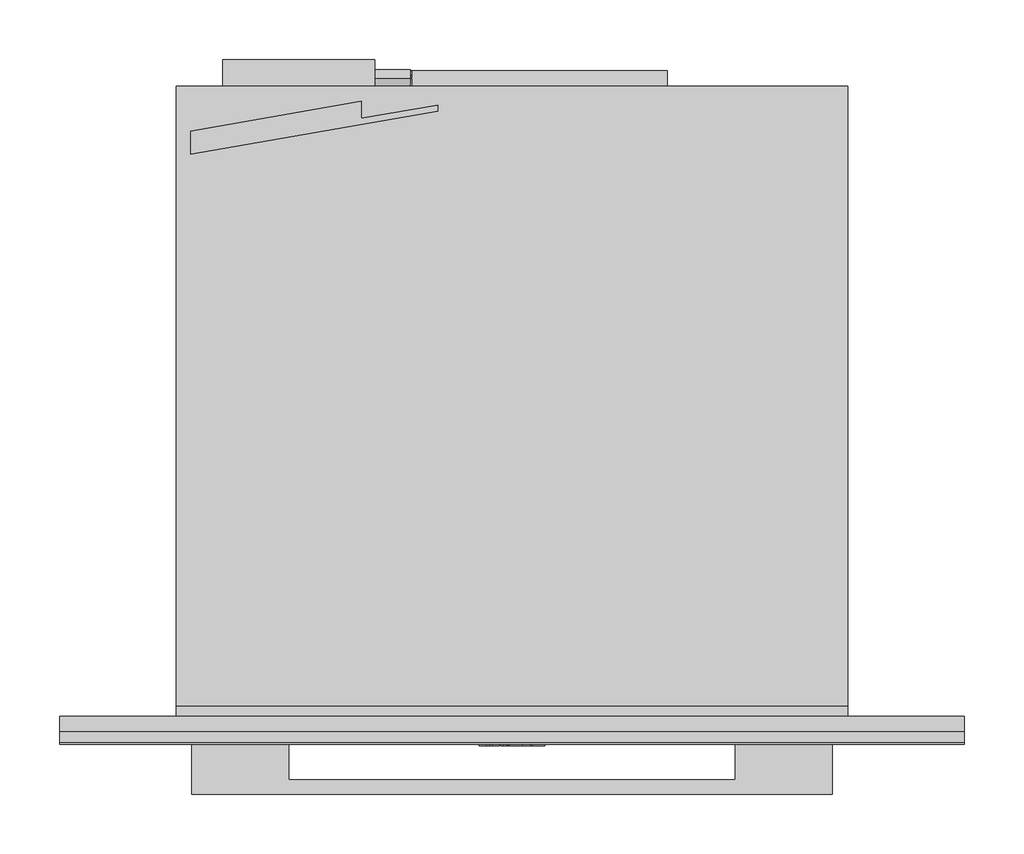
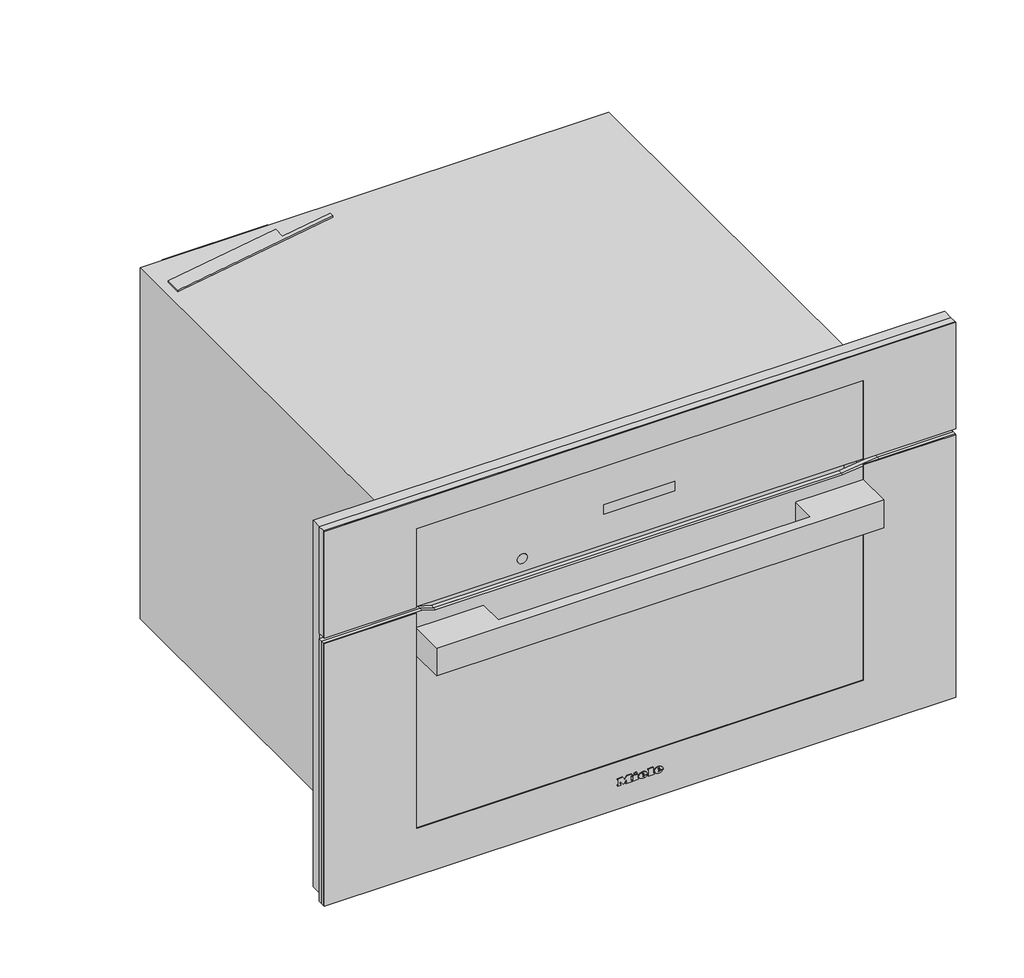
# Not in any storey: 1 proxy.
"""IFC4 building model written with IfcOpenShell, lengths in millimetres."""

import ifcopenshell
import ifcopenshell.guid

model = None  # the IFC model being written
_history = None  # IfcOwnerHistory: only IFC2X3 demands one
_inside = {}  # id of a spatial element -> (the spatial element, [elements in it])
_under = {}  # id of a project, library or spatial element -> (it, [spatial elements below it])
_declared = {}  # id of a project -> (the project, [libraries it declares])
_typed = {}  # id of a type object -> (the type object, [elements of that type])
_made_of = {}  # id of a material, layer set ... -> (it, [elements and type objects made of it])


def new_model(schema):
    """Start an empty IFC model of exactly this schema.

    Asked for "IFC4X3", IfcOpenShell would pick the latest addendum, in which some entities
    have other attributes; the version numbers below select the first issue.
    IFC2X3 requires an IfcOwnerHistory on every rooted entity: one is made here for all.
    """
    global model, _history
    if schema == "IFC4X3":
        model = ifcopenshell.file(schema_version=(4, 3, 0, 0))
    else:
        model = ifcopenshell.file(schema=schema)
    _inside.clear()
    _under.clear()
    _declared.clear()
    _typed.clear()
    _made_of.clear()
    _history = None
    if model.schema == "IFC2X3":
        org = make("IfcOrganization", Name="unknown")
        user = make(
            "IfcPersonAndOrganization",
            ThePerson=make("IfcPerson", FamilyName="unknown"),
            TheOrganization=org,
        )
        app = make(
            "IfcApplication",
            ApplicationDeveloper=org,
            Version="unknown",
            ApplicationFullName="unknown",
            ApplicationIdentifier="unknown",
        )
        _history = make(
            "IfcOwnerHistory",
            OwningUser=user,
            OwningApplication=app,
            ChangeAction="ADDED",
            CreationDate=0,
        )
    return model


def make(cls, **values):
    """One entity of the class cls with the attributes given. An attribute that is None is left unset."""
    return model.create_entity(
        cls, **{name: value for name, value in values.items() if value is not None}
    )


def rooted(cls, **values):
    """An entity with a GlobalId (a new one), such as an element, a storey or a relation."""
    return make(cls, GlobalId=ifcopenshell.guid.new(), OwnerHistory=_history, **values)


def si_unit(unit_type, name, prefix=None):
    """IfcSIUnit, for example si_unit("LENGTHUNIT", "METRE", prefix="MILLI")."""
    return make("IfcSIUnit", UnitType=unit_type, Prefix=prefix, Name=name)


def assignment(units):
    """IfcUnitAssignment: the units of a project."""
    return None if units is None else make("IfcUnitAssignment", Units=units)


def point(xyz):
    """IfcCartesianPoint."""
    return None if xyz is None else make("IfcCartesianPoint", Coordinates=xyz)


def direction(xyz):
    """IfcDirection."""
    return None if xyz is None else make("IfcDirection", DirectionRatios=xyz)


def frame(location, z_axis=None, x_axis=None):
    """IfcAxis2Placement3D, a coordinate frame: its origin and axes. An axis left out is left unset."""
    return make(
        "IfcAxis2Placement3D",
        Location=point(location),
        Axis=direction(z_axis),
        RefDirection=direction(x_axis),
    )


def frame_2d(location, x_axis=None):
    """IfcAxis2Placement2D, a coordinate frame in the plane: its origin and x axis."""
    return make(
        "IfcAxis2Placement2D", Location=point(location), RefDirection=direction(x_axis)
    )


def origin():
    """The frame at (0, 0, 0) with its axes left unset."""
    return frame((0.0, 0.0, 0.0))


def place(relative_to, where):
    """IfcLocalPlacement: puts the frame where relative to a parent placement (None: the world)."""
    return make(
        "IfcLocalPlacement", PlacementRelTo=relative_to, RelativePlacement=where
    )


def context(
    kind, dimensions, precision=None, world=None, true_north=None, identifier=None
):
    """IfcGeometricRepresentationContext, for example the 3D "Model" context."""
    return make(
        "IfcGeometricRepresentationContext",
        ContextIdentifier=identifier,
        ContextType=kind,
        CoordinateSpaceDimension=dimensions,
        Precision=precision,
        WorldCoordinateSystem=world,
        TrueNorth=true_north,
    )


def project(units=None, contexts=None):
    """IfcProject with its units and contexts."""
    return rooted(
        "IfcProject",
        Name="project",
        RepresentationContexts=contexts,
        UnitsInContext=assignment(units),
    )


def spatial(cls, under=None, at=None, **own):
    """A site, building, storey or space (cls), placed at a placement, below another one or the project."""
    s = rooted(cls, ObjectPlacement=at, **own)
    if under is not None:
        _under.setdefault(under.id(), (under, []))[1].append(s)
    return s


def polyline(points):
    """IfcPolyline through the points."""
    return make("IfcPolyline", Points=[point(p) for p in points])


def circle_curve(where, radius):
    """IfcCircle in the frame where."""
    return make("IfcCircle", Position=where, Radius=radius)


def ellipse_curve(where, semi_axis1, semi_axis2):
    """IfcEllipse in the frame where."""
    return make(
        "IfcEllipse", Position=where, SemiAxis1=semi_axis1, SemiAxis2=semi_axis2
    )


def trimmed(basis, trim1, trim2, sense, master):
    """IfcTrimmedCurve: the piece of a basis curve between two trims."""
    return make(
        "IfcTrimmedCurve",
        BasisCurve=basis,
        Trim1=trim1,
        Trim2=trim2,
        SenseAgreement=sense,
        MasterRepresentation=master,
    )


def segment(curve, same_sense, transition):
    """IfcCompositeCurveSegment."""
    return make(
        "IfcCompositeCurveSegment",
        Transition=transition,
        SameSense=same_sense,
        ParentCurve=curve,
    )


def composite_curve(segments, self_intersect=None):
    """IfcCompositeCurve: segments joined end to end."""
    return make("IfcCompositeCurve", Segments=segments, SelfIntersect=self_intersect)


def outline(outer, holes=None, kind="AREA"):
    """IfcArbitraryClosedProfileDef: a profile drawn as a closed curve; with holes, ...WithVoids."""
    if holes is None:
        return make("IfcArbitraryClosedProfileDef", ProfileType=kind, OuterCurve=outer)
    return make(
        "IfcArbitraryProfileDefWithVoids",
        ProfileType=kind,
        OuterCurve=outer,
        InnerCurves=holes,
    )


def extrude(swept, where, along, depth):
    """IfcExtrudedAreaSolid: the profile swept, set in the frame where, extruded along a direction by depth."""
    return make(
        "IfcExtrudedAreaSolid",
        SweptArea=swept,
        Position=where,
        ExtrudedDirection=direction(along),
        Depth=depth,
    )


def faces_of(points, faces, orient=None, outer=None):
    """IfcFace entities. A face is a list of loops; a loop is a list of indices into points, from 0.

    orient and outer hold one flag for each loop. By default every Orientation is true, the
    first loop of a face is its IfcFaceOuterBound and the others are IfcFaceBound.
    """
    made = []
    for i, loops in enumerate(faces):
        bounds = []
        for j, loop in enumerate(loops):
            is_outer = j == 0 if outer is None else outer[i][j]
            bounds.append(
                make(
                    "IfcFaceOuterBound" if is_outer else "IfcFaceBound",
                    Bound=make("IfcPolyLoop", Polygon=[points[k] for k in loop]),
                    Orientation=True if orient is None else orient[i][j],
                )
            )
        made.append(make("IfcFace", Bounds=bounds))
    return made


def faceted_brep(points, faces, orient=None, outer=None, voids=None):
    """IfcFacetedBrep: a solid bounded by flat faces; with voids (closed shells), ...WithVoids."""
    shared = [point(p) for p in points]
    hull = make("IfcClosedShell", CfsFaces=faces_of(shared, faces, orient, outer))
    if voids is None:
        return make("IfcFacetedBrep", Outer=hull)
    return make(
        "IfcFacetedBrepWithVoids",
        Outer=hull,
        Voids=[
            make(cls, CfsFaces=faces_of(shared, fs, o, b)) for cls, fs, o, b in voids
        ],
    )


def shape(context_of_items, identifier, shape_type, items):
    """IfcShapeRepresentation: the items that make up one representation, for example the "Body"."""
    return make(
        "IfcShapeRepresentation",
        ContextOfItems=context_of_items,
        RepresentationIdentifier=identifier,
        RepresentationType=shape_type,
        Items=items,
    )


def source(mapping_origin, context_of_items, identifier, shape_type, items):
    """IfcRepresentationMap: a shape defined once, which mapped items show again and again."""
    return make(
        "IfcRepresentationMap",
        MappingOrigin=mapping_origin,
        MappedRepresentation=shape(context_of_items, identifier, shape_type, items),
    )


def transform(
    local_origin,
    x_axis=None,
    y_axis=None,
    z_axis=None,
    scale=None,
    scale2=None,
    scale3=None,
    uniform=True,
):
    """IfcCartesianTransformationOperator3D, or its non-uniform kind. x_axis, y_axis, z_axis: its Axis1, 2, 3."""
    if uniform:
        return make(
            "IfcCartesianTransformationOperator3D",
            Axis1=direction(x_axis),
            Axis2=direction(y_axis),
            LocalOrigin=point(local_origin),
            Scale=scale,
            Axis3=direction(z_axis),
        )
    return make(
        "IfcCartesianTransformationOperator3DnonUniform",
        Axis1=direction(x_axis),
        Axis2=direction(y_axis),
        LocalOrigin=point(local_origin),
        Scale=scale,
        Axis3=direction(z_axis),
        Scale2=scale2,
        Scale3=scale3,
    )


def mapped(mapping_source, mapping_target):
    """IfcMappedItem: shows the shape of a source again, moved by a transform."""
    return make(
        "IfcMappedItem", MappingSource=mapping_source, MappingTarget=mapping_target
    )


def made_of(thing, what):
    """Note that an element or type object is made of a material, layer set ...; save() writes the relation."""
    if what is not None:
        _made_of.setdefault(what.id(), (what, []))[1].append(thing)
    return thing


def element(
    cls,
    number,
    at=None,
    inside=None,
    cuts=None,
    type_object=None,
    material=None,
    context=None,
    identifier="Body",
    shape_type=None,
    held_by="IfcProductDefinitionShape",
    body=None,
    shapes=None,
    **own,
):
    """One element of the class cls, such as IfcWall. Its Tag is "e" and its number.

    at: its placement. inside: the storey or other place that contains it. cuts: it is an
    opening in that element (IfcRelVoidsElement). A single representation is given by context,
    identifier, shape_type and body (its items); several are given by shapes. held_by: the class
    of the entity that holds the representations. save() writes the other relations.
    """
    e = rooted(cls, Tag="e%d" % number, ObjectPlacement=at, **own)
    if body is not None:
        shapes = [shape(context, identifier, shape_type, body)]
    if shapes is not None:
        e.Representation = make(held_by, Representations=shapes)
    if inside is not None:
        _inside.setdefault(inside.id(), (inside, []))[1].append(e)
    if cuts is not None:
        rooted(
            "IfcRelVoidsElement", RelatingBuildingElement=cuts, RelatedOpeningElement=e
        )
    if type_object is not None:
        _typed.setdefault(type_object.id(), (type_object, []))[1].append(e)
    return made_of(e, material)


def aggregate(whole, parts):
    """IfcRelAggregates: a whole, such as a stair, and the parts it consists of."""
    return rooted("IfcRelAggregates", RelatingObject=whole, RelatedObjects=parts)


def save(model, path):
    """Write the relations noted so far, then the file.

    IfcRelAggregates (storeys below a building ...), IfcRelContainedInSpatialStructure (elements
    in a storey), IfcRelDefinesByType, IfcRelAssociatesMaterial and IfcRelDeclares: one each for
    every whole, place, type object, material and project.
    """
    for whole, parts in _under.values():
        aggregate(whole, parts)
    for where, things in _inside.values():
        rooted(
            "IfcRelContainedInSpatialStructure",
            RelatedElements=things,
            RelatingStructure=where,
        )
    for kind, things in _typed.values():
        rooted("IfcRelDefinesByType", RelatedObjects=things, RelatingType=kind)
    for what, things in _made_of.values():
        rooted("IfcRelAssociatesMaterial", RelatedObjects=things, RelatingMaterial=what)
    for by, libraries in _declared.values():
        rooted("IfcRelDeclares", RelatingContext=by, RelatedDefinitions=libraries)
    model.write(path)


def plane_surface(at):
    """IfcPlane: the flat surface through the origin of the frame at, square to its z axis."""
    return make("IfcPlane", Position=at)


def cylinder_surface(at, radius):
    """IfcCylindricalSurface: all points at the distance radius from the z axis of the frame at."""
    return make("IfcCylindricalSurface", Position=at, Radius=radius)


def revolved_surface(curve, axis_point, axis_direction):
    """IfcSurfaceOfRevolution: the curve turned about the line through axis_point along axis_direction."""
    return make(
        "IfcSurfaceOfRevolution",
        SweptCurve=make("IfcArbitraryOpenProfileDef", ProfileType="CURVE", Curve=curve),
        AxisPosition=make("IfcAxis1Placement", Location=point(axis_point), Axis=direction(axis_direction)),
    )


def extruded_surface(curve, direction_of_extrusion, depth):
    """IfcSurfaceOfLinearExtrusion: the curve pushed along a direction by depth."""
    return make(
        "IfcSurfaceOfLinearExtrusion",
        SweptCurve=make("IfcArbitraryOpenProfileDef", ProfileType="CURVE", Curve=curve),
        ExtrudedDirection=direction(direction_of_extrusion),
        Depth=depth,
    )


def advanced_brep(points, edges, surfaces, faces):
    """IfcAdvancedBrep: a solid bounded by faces that lie on surfaces and meet in shared edges.

    An edge is (start, end): straight between two places in points (the first is 0);
    or (start, end, curve); or (start, end, curve, False) where it runs against its curve.
    A face is (place in surfaces, loops), or (place, loops, False) where it looks against
    its surface's normal. A loop lists edges by number (the first is 1), with a minus sign
    where the edge is run from its end to its start. The first loop is the outer one.
    """
    corners = [point(p) for p in points]
    vertices = [make("IfcVertexPoint", VertexGeometry=c) for c in corners]
    made = []
    for start, end, *more in edges:
        made.append(
            make(
                "IfcEdgeCurve",
                EdgeStart=vertices[start],
                EdgeEnd=vertices[end],
                EdgeGeometry=more[0] if more else make("IfcPolyline", Points=[corners[start], corners[end]]),
                SameSense=more[1] if len(more) > 1 else True,
            )
        )
    hull = []
    for where, loops, *sense in faces:
        bounds = []
        for j, loop in enumerate(loops):
            ring = [make("IfcOrientedEdge", EdgeElement=made[abs(k) - 1], Orientation=k > 0) for k in loop]
            bounds.append(
                make(
                    "IfcFaceOuterBound" if j == 0 else "IfcFaceBound",
                    Bound=make("IfcEdgeLoop", EdgeList=ring),
                    Orientation=True,
                )
            )
        hull.append(make("IfcAdvancedFace", Bounds=bounds, FaceSurface=surfaces[where], SameSense=sense[0] if sense else True))
    return make("IfcAdvancedBrep", Outer=make("IfcClosedShell", CfsFaces=hull))


def specialty_equipment_035421ed(model_context):
    return source(origin(), model_context, "Body", "SolidModel", [
        advanced_brep(
        [(21.28, -24.3, 36.133), (21.28, -24.3, 37.042), (27.301, -24.3, 37.042), (16.825, -24.3, 37.042), (19.3, -24.3, 34.0), (27.148, -24.3, 36.133), (24.43, -24.3, 36.133), (22.288, -24.3, 35.125), (21.28, -24.3, 38.194), (21.28, -24.3, 39.175), (22.819, -24.3, 39.175), (22.819, -24.3, 38.194), (21.28, -23.3, 36.133), (22.288, -23.3, 35.125), (24.43, -23.3, 36.133), (27.148, -23.3, 36.133), (19.3, -23.3, 34.0), (16.825, -23.3, 37.042), (27.301, -23.3, 37.042), (21.28, -23.3, 37.042), (21.28, -23.3, 38.194), (22.819, -23.3, 38.194), (22.819, -23.3, 39.175), (21.28, -23.3, 39.175)],
        [
            (0, 1),
            (1, 2),
            (2, 3, ellipse_curve(frame((22.063, -24.3, 37.042), z_axis=(0.0, -1.0, 0.0), x_axis=(-1.0, 0.0, 0.0)), 5.238, 4.329)),
            (3, 4, circle_curve(frame((20.3080491, -24.3, 37.348), z_axis=(0.0, -1.0, 0.0), x_axis=(0.0, 0.0, -1.0)), 3.4964649)),
            (4, 5, circle_curve(frame((21.9581428, -24.3, 39.724), z_axis=(0.0, -1.0, 0.0), x_axis=(0.0, 0.0, -1.0)), 6.3110933)),
            (5, 6),
            (6, 7, circle_curve(frame((22.7279412, -24.3, 36.97), z_axis=(0.0, 1.0, 0.0), x_axis=(0.0, 0.0, -1.0)), 1.896727)),
            (7, 0, circle_curve(frame((22.288, -24.3, 36.133), z_axis=(0.0, 1.0, 0.0), x_axis=(0.0, 0.0, -1.0)), 1.008)),
            (8, 9),
            (9, 10, circle_curve(frame((22.0495, -24.3, 39.175), z_axis=(0.0, 1.0, 0.0), x_axis=(0.0, 0.0, -1.0)), 0.7695)),
            (10, 11),
            (11, 8),
            (12, 13, circle_curve(frame((22.288, -23.3, 36.133), z_axis=(0.0, -1.0, 0.0), x_axis=(0.0, 0.0, -1.0)), 1.008)),
            (13, 14, circle_curve(frame((22.7279412, -23.3, 36.97), z_axis=(0.0, -1.0, 0.0), x_axis=(0.0, 0.0, -1.0)), 1.896727)),
            (14, 15),
            (15, 16, circle_curve(frame((21.9581428, -23.3, 39.724), z_axis=(0.0, 1.0, 0.0), x_axis=(0.0, 0.0, -1.0)), 6.3110933)),
            (16, 17, circle_curve(frame((20.3080491, -23.3, 37.348), z_axis=(0.0, 1.0, 0.0), x_axis=(0.0, 0.0, -1.0)), 3.4964649)),
            (17, 18, ellipse_curve(frame((22.063, -23.3, 37.042), z_axis=(0.0, 1.0, 0.0), x_axis=(-1.0, 0.0, 0.0)), 5.238, 4.329)),
            (18, 19),
            (19, 12),
            (20, 21),
            (21, 22),
            (22, 23, circle_curve(frame((22.0495, -23.3, 39.175), z_axis=(0.0, -1.0, 0.0), x_axis=(0.0, 0.0, -1.0)), 0.7695)),
            (23, 20),
            (0, 12),
            (19, 1),
            (18, 2),
            (5, 15),
            (14, 6),
            (17, 3),
            (13, 7),
            (16, 4),
            (8, 20),
            (23, 9),
            (22, 10),
            (21, 11),
        ],
        [
            plane_surface(frame((21.28, -24.3, 37.042), z_axis=(0.0, -1.0, 0.0), x_axis=(0.0, 0.0, 1.0))),
            plane_surface(frame((21.28, -23.3, 37.042), z_axis=(0.0, 1.0, 0.0), x_axis=(0.0, 0.0, -1.0))),
            plane_surface(frame((21.28, -24.3, 36.133), z_axis=(1.0, 0.0, 0.0), x_axis=(0.0, 1.0, 0.0))),
            plane_surface(frame((21.28, -24.3, 37.042), z_axis=(0.0, 0.0, -1.0), x_axis=(0.0, 1.0, 0.0))),
            plane_surface(frame((27.148, -24.3, 36.133), z_axis=(0.0, 0.0, 1.0), x_axis=(0.0, 1.0, 0.0))),
            extruded_surface(trimmed(ellipse_curve(frame((22.063, -22.3, 37.042), z_axis=(0.0, -1.0, 0.0), x_axis=(-1.0, 0.0, 0.0)), 5.238, 4.329), [point((27.301, -22.3, 37.042))], [point((16.825, -22.3, 37.042))], True, "CARTESIAN"), (0.0, -1.0, 0.0), 1.0),
            revolved_surface(polyline([(22.7279412, -23.3, 35.073273), (22.7279412, -24.3, 35.073273)]), (22.7279412, -23.3, 36.97), (0.0, 1.0, 0.0)),
            revolved_surface(polyline([(22.288, -23.3, 35.125), (22.288, -24.3, 35.125)]), (22.288, -23.3, 36.133), (0.0, 1.0, 0.0)),
            cylinder_surface(frame((20.3080491, -23.3, 37.348), z_axis=(0.0, -1.0, 0.0), x_axis=(0.0, 0.0, -1.0)), 3.4964649),
            cylinder_surface(frame((21.9581428, -23.3, 39.724), z_axis=(0.0, -1.0, 0.0), x_axis=(0.0, 0.0, -1.0)), 6.3110933),
            plane_surface(frame((21.28, -24.3, 38.194), z_axis=(1.0, 0.0, 0.0), x_axis=(0.0, 1.0, 0.0))),
            revolved_surface(polyline([(22.0495, -23.3, 38.405499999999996), (22.0495, -24.3, 38.405499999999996)]), (22.0495, -23.3, 39.175), (0.0, 1.0, 0.0)),
            plane_surface(frame((22.819, -24.3, 39.175), z_axis=(-1.0, 0.0, 0.0), x_axis=(0.0, 1.0, 0.0))),
            plane_surface(frame((22.819, -24.3, 38.194), z_axis=(0.0, 0.0, 1.0), x_axis=(0.0, 1.0, 0.0))),
        ],
        [
            (0, [[1, 2, 3, 4, 5, 6, 7, 8], [9, 10, 11, 12]]),
            (1, [[13, 14, 15, 16, 17, 18, 19, 20], [21, 22, 23, 24]]),
            (2, [[-1, 25, -20, 26]]),
            (3, [[-2, -26, -19, 27]]),
            (4, [[-6, 28, -15, 29]]),
            (5, [[-3, -27, -18, 30]]),
            (6, [[-7, -29, -14, 31]]),
            (7, [[-8, -31, -13, -25]]),
            (8, [[-4, -30, -17, 32]]),
            (9, [[-5, -32, -16, -28]]),
            (10, [[-9, 33, -24, 34]]),
            (11, [[-10, -34, -23, 35]]),
            (12, [[-11, -35, -22, 36]]),
            (13, [[-12, -36, -21, -33]]),
        ],
    ),
        advanced_brep(
        [(2.497, -24.3, 36.133), (2.497, -24.3, 37.042), (8.518, -24.3, 37.042), (-1.958, -24.3, 37.042), (0.517, -24.3, 34.0), (8.365, -24.3, 36.133), (5.647, -24.3, 36.133), (3.505, -24.3, 35.125), (2.497, -24.3, 38.194), (2.497, -24.3, 39.175), (4.036, -24.3, 39.175), (4.036, -24.3, 38.194), (2.497, -23.3, 36.133), (3.505, -23.3, 35.125), (5.647, -23.3, 36.133), (8.365, -23.3, 36.133), (0.517, -23.3, 34.0), (-1.958, -23.3, 37.042), (8.518, -23.3, 37.042), (2.497, -23.3, 37.042), (2.497, -23.3, 38.194), (4.036, -23.3, 38.194), (4.036, -23.3, 39.175), (2.497, -23.3, 39.175)],
        [
            (0, 1),
            (1, 2),
            (2, 3, ellipse_curve(frame((3.28, -24.3, 37.042), z_axis=(0.0, -1.0, 0.0), x_axis=(-1.0, 0.0, 0.0)), 5.238, 4.329)),
            (3, 4, circle_curve(frame((1.5250491, -24.3, 37.348), z_axis=(0.0, -1.0, 0.0), x_axis=(0.0, 0.0, -1.0)), 3.4964649)),
            (4, 5, circle_curve(frame((3.1751428, -24.3, 39.724), z_axis=(0.0, -1.0, 0.0), x_axis=(0.0, 0.0, -1.0)), 6.3110933)),
            (5, 6),
            (6, 7, circle_curve(frame((3.9449412, -24.3, 36.97), z_axis=(0.0, 1.0, 0.0), x_axis=(0.0, 0.0, -1.0)), 1.896727)),
            (7, 0, circle_curve(frame((3.505, -24.3, 36.133), z_axis=(0.0, 1.0, 0.0), x_axis=(0.0, 0.0, -1.0)), 1.008)),
            (8, 9),
            (9, 10, circle_curve(frame((3.2665, -24.3, 39.175), z_axis=(0.0, 1.0, 0.0), x_axis=(0.0, 0.0, -1.0)), 0.7695)),
            (10, 11),
            (11, 8),
            (12, 13, circle_curve(frame((3.505, -23.3, 36.133), z_axis=(0.0, -1.0, 0.0), x_axis=(0.0, 0.0, -1.0)), 1.008)),
            (13, 14, circle_curve(frame((3.9449412, -23.3, 36.97), z_axis=(0.0, -1.0, 0.0), x_axis=(0.0, 0.0, -1.0)), 1.896727)),
            (14, 15),
            (15, 16, circle_curve(frame((3.1751428, -23.3, 39.724), z_axis=(0.0, 1.0, 0.0), x_axis=(0.0, 0.0, -1.0)), 6.3110933)),
            (16, 17, circle_curve(frame((1.5250491, -23.3, 37.348), z_axis=(0.0, 1.0, 0.0), x_axis=(0.0, 0.0, -1.0)), 3.4964649)),
            (17, 18, ellipse_curve(frame((3.28, -23.3, 37.042), z_axis=(0.0, 1.0, 0.0), x_axis=(-1.0, 0.0, 0.0)), 5.238, 4.329)),
            (18, 19),
            (19, 12),
            (20, 21),
            (21, 22),
            (22, 23, circle_curve(frame((3.2665, -23.3, 39.175), z_axis=(0.0, -1.0, 0.0), x_axis=(0.0, 0.0, -1.0)), 0.7695)),
            (23, 20),
            (0, 12),
            (19, 1),
            (18, 2),
            (5, 15),
            (14, 6),
            (17, 3),
            (13, 7),
            (16, 4),
            (8, 20),
            (23, 9),
            (22, 10),
            (21, 11),
        ],
        [
            plane_surface(frame((2.497, -24.3, 37.042), z_axis=(0.0, -1.0, 0.0), x_axis=(0.0, 0.0, 1.0))),
            plane_surface(frame((2.497, -23.3, 37.042), z_axis=(0.0, 1.0, 0.0), x_axis=(0.0, 0.0, -1.0))),
            plane_surface(frame((2.497, -24.3, 36.133), z_axis=(1.0, 0.0, 0.0), x_axis=(0.0, 1.0, 0.0))),
            plane_surface(frame((2.497, -24.3, 37.042), z_axis=(0.0, 0.0, -1.0), x_axis=(0.0, 1.0, 0.0))),
            plane_surface(frame((8.365, -24.3, 36.133), z_axis=(0.0, 0.0, 1.0), x_axis=(0.0, 1.0, 0.0))),
            extruded_surface(trimmed(ellipse_curve(frame((3.28, -22.3, 37.042), z_axis=(0.0, -1.0, 0.0), x_axis=(-1.0, 0.0, 0.0)), 5.238, 4.329), [point((8.518, -22.3, 37.042))], [point((-1.958, -22.3, 37.042))], True, "CARTESIAN"), (0.0, -1.0, 0.0), 1.0),
            revolved_surface(polyline([(3.9449412, -23.3, 35.073273), (3.9449412, -24.3, 35.073273)]), (3.9449412, -23.3, 36.97), (0.0, 1.0, 0.0)),
            revolved_surface(polyline([(3.505, -23.3, 35.125), (3.505, -24.3, 35.125)]), (3.505, -23.3, 36.133), (0.0, 1.0, 0.0)),
            cylinder_surface(frame((1.5250491, -23.3, 37.348), z_axis=(0.0, -1.0, 0.0), x_axis=(0.0, 0.0, -1.0)), 3.4964649),
            cylinder_surface(frame((3.1751428, -23.3, 39.724), z_axis=(0.0, -1.0, 0.0), x_axis=(0.0, 0.0, -1.0)), 6.3110933),
            plane_surface(frame((2.497, -24.3, 38.194), z_axis=(1.0, 0.0, 0.0), x_axis=(0.0, 1.0, 0.0))),
            revolved_surface(polyline([(3.2665, -23.3, 38.405499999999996), (3.2665, -24.3, 38.405499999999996)]), (3.2665, -23.3, 39.175), (0.0, 1.0, 0.0)),
            plane_surface(frame((4.036, -24.3, 39.175), z_axis=(-1.0, 0.0, 0.0), x_axis=(0.0, 1.0, 0.0))),
            plane_surface(frame((4.036, -24.3, 38.194), z_axis=(0.0, 0.0, 1.0), x_axis=(0.0, 1.0, 0.0))),
        ],
        [
            (0, [[1, 2, 3, 4, 5, 6, 7, 8], [9, 10, 11, 12]]),
            (1, [[13, 14, 15, 16, 17, 18, 19, 20], [21, 22, 23, 24]]),
            (2, [[-1, 25, -20, 26]]),
            (3, [[-2, -26, -19, 27]]),
            (4, [[-6, 28, -15, 29]]),
            (5, [[-3, -27, -18, 30]]),
            (6, [[-7, -29, -14, 31]]),
            (7, [[-8, -31, -13, -25]]),
            (8, [[-4, -30, -17, 32]]),
            (9, [[-5, -32, -16, -28]]),
            (10, [[-9, 33, -24, 34]]),
            (11, [[-10, -34, -23, 35]]),
            (12, [[-11, -35, -22, 36]]),
            (13, [[-12, -36, -21, -33]]),
        ],
    ),
        extrude(outline(polyline([(42.469, -7.34), (41.011, -6.656), (42.433, -3.605), (43.891, -4.28), (42.469, -7.34)])), frame((0.0, -24.3, 0.0), z_axis=(0.0, 1.0, 0.0), x_axis=(0.0, 0.0, 1.0)), (0.0, 0.0, 1.0), 1.0),
        extrude(outline(polyline([(40.813, -9.563), (39.202, -9.563), (39.202, -8.492), (35.512, -8.492), (35.512, -9.563), (34.0, -9.563), (34.0, -2.462), (35.512, -2.462), (35.512, -3.506), (40.813, -3.506), (40.813, -9.563)])), frame((0.0, -24.3, 0.0), z_axis=(0.0, 1.0, 0.0), x_axis=(0.0, 0.0, 1.0)), (0.0, 0.0, 1.0), 1.0),
        extrude(outline(polyline([(41.533, 9.022), (41.533, 10.102), (35.512, 10.102), (35.512, 9.022), (34.0, 9.022), (34.0, 16.321), (35.512, 16.321), (35.512, 15.214), (43.0, 15.214), (43.0, 9.022), (41.533, 9.022)])), frame((0.0, -24.3, 0.0), z_axis=(0.0, 1.0, 0.0), x_axis=(0.0, 0.0, 1.0)), (0.0, 0.0, 1.0), 1.0),
        extrude(outline(polyline([(41.533, -27.5), (41.533, -26.411), (35.512, -26.411), (35.512, -27.5), (34.0, -27.5), (34.0, -23.54), (35.512, -23.54), (35.512, -24.62), (39.3341247, -24.62), (34.0, -20.597), (39.4402223, -16.556), (35.512, -16.556), (35.512, -17.663), (34.0, -17.663), (34.0, -10.481), (35.512, -10.481), (35.512, -11.624), (41.533, -11.624), (41.533, -10.481), (43.0, -10.481), (43.0, -15.962), (39.625, -18.59), (43.0, -21.227), (43.0, -27.5), (41.533, -27.5)])), frame((0.0, -24.3, 0.0), z_axis=(0.0, 1.0, 0.0), x_axis=(0.0, 0.0, 1.0)), (0.0, 0.0, 1.0), 1.0),
        extrude(outline(polyline([(337.0, -268.5), (337.0, -378.5), (4.0, -378.5), (4.0, 378.5), (337.0, 378.5), (337.0, 268.5), (64.0, 268.5), (64.0, -268.5), (337.0, -268.5)])), frame((0.0, -23.3, 0.0), z_axis=(0.0, 1.0, 0.0), x_axis=(0.0, 0.0, 1.0)), (0.0, 0.0, 1.0), 1.3),
        extrude(outline(polyline([(337.0, -378.5), (4.0, -378.5), (4.0, 378.5), (337.0, 378.5), (337.0, 287.3542631), (332.0, 244.0), (332.0, -244.0), (337.0, -260.3542631), (337.0, -378.5)])), frame((0.0, -22.0, 0.0), z_axis=(0.0, 1.0, 0.0), x_axis=(0.0, 0.0, 1.0)), (0.0, 0.0, 1.0), 4.0),
        extrude(outline(polyline([(-187.0, -22.0), (-187.0, -53.0), (187.0, -53.0), (187.0, -22.0), (268.0, -22.0), (268.0, -65.0), (-268.0, -65.0), (-268.0, -22.0), (-187.0, -22.0)])), frame((0.0, 0.0, 283.0), z_axis=(0.0, 0.0, 1.0), x_axis=(1.0, 0.0, 0.0)), (0.0, 0.0, 1.0), 35.0),
        extrude(outline(polyline([(337.0, -378.5), (4.0, -378.5), (4.0, 378.5), (337.0, 378.5), (337.0, 287.3542631), (332.0, 244.0), (332.0, -244.0), (337.0, -260.3542631), (337.0, -378.5)])), frame((0.0, -18.0, 0.0), z_axis=(0.0, 1.0, 0.0), x_axis=(0.0, 0.0, 1.0)), (0.0, 0.0, 1.0), 5.0),
        extrude(outline(polyline([(-199.5, -18.0), (199.5, -18.0), (199.5, -22.0), (-199.5, -22.0), (-199.5, -18.0)])), frame((0.0, 0.0, 82.0), z_axis=(0.0, 0.0, 1.0), x_axis=(1.0, 0.0, 0.0)), (0.0, 0.0, 1.0), 170.0),
        extrude(outline(polyline([(479.0, -378.5), (344.0, -378.5), (344.0, -268.5), (444.0, -268.5), (444.0, 268.5), (344.0, 268.5), (344.0, 378.5), (479.0, 378.5), (479.0, -378.5)])), frame((0.0, -23.3, 0.0), z_axis=(0.0, 1.0, 0.0), x_axis=(0.0, 0.0, 1.0)), (0.0, 0.0, 1.0), 1.3),
        extrude(outline(polyline([(-42.5, -21.0), (42.5, -21.0), (42.5, -22.0), (-42.5, -22.0), (-42.5, -21.0)])), frame((0.0, 0.0, 382.5), z_axis=(0.0, 0.0, 1.0), x_axis=(1.0, 0.0, 0.0)), (0.0, 0.0, 1.0), 12.0),
        faceted_brep([(378.5, -22.0, 479.0), (-378.5, -22.0, 479.0), (-378.5, -22.0, 344.0), (378.5, -22.0, 344.0), (42.5, -22.0, 394.5), (42.5, -22.0, 382.5), (-42.5, -22.0, 382.5), (-42.5, -22.0, 394.5), (378.5, -13.0, 479.0), (378.5, -13.0, 344.0), (-378.5, -13.0, 344.0), (-378.5, -13.0, 479.0), (42.5, -21.0, 394.5), (-42.5, -21.0, 394.5), (-42.5, -21.0, 382.5), (42.5, -21.0, 382.5)], [[[0, 1, 2, 3], [4, 5, 6, 7]], [[8, 9, 10, 11]], [[1, 0, 8, 11]], [[2, 1, 11, 10]], [[3, 2, 10, 9]], [[0, 3, 9, 8]], [[12, 13, 14, 15]], [[12, 15, 5, 4]], [[15, 14, 6, 5]], [[14, 13, 7, 6]], [[13, 12, 4, 7]]]),
        extrude(outline(composite_curve([segment(trimmed(circle_curve(frame_2d((361.0, -140.5745637)), 6.0), [point((361.0, -146.5745637))], [point((361.0, -134.5745637))], False, "CARTESIAN"), True, "CONTINUOUS"), segment(trimmed(circle_curve(frame_2d((361.0, -140.5745637)), 6.0), [point((361.0, -134.5745637))], [point((361.0, -146.5745637))], False, "CARTESIAN"), True, "CONTINUOUS")], self_intersect=False)), frame((0.0, -22.5, 0.0), z_axis=(0.0, 1.0, 0.0), x_axis=(0.0, 0.0, 1.0)), (0.0, 0.0, 1.0), 1.0),
        extrude(outline(polyline([(-269.0, 490.2851942), (-126.0, 515.1547594), (-126.0, 500.9446163), (-62.0, 512.0750511), (-62.0, 507.0), (-269.0, 471.0), (-269.0, 490.2851942)])), frame((0.0, 0.0, 445.0), z_axis=(0.0, 0.0, 1.0), x_axis=(1.0, 0.0, 0.0)), (0.0, 0.0, 1.0), 2.0),
        extrude(outline(polyline([(528.134837, 358.3256163), (533.9911721, 358.3256163), (533.9911721, 357.3256163), (529.134837, 357.3256163), (529.134837, 353.8256163), (532.0849866, 353.8256163), (532.0849866, 352.8256163), (529.134837, 352.8256163), (529.134837, 349.3256163), (533.9911721, 349.3256163), (533.9911721, 348.3256163), (528.134837, 348.3256163), (528.134837, 358.3256163)])), frame((-85.0, 0.0, 0.0), z_axis=(1.0, 0.0, 0.0), x_axis=(0.0, 1.0, 0.0)), (0.0, 0.0, 1.0), 1.0),
        extrude(outline(polyline([(535.4911721, 348.3256163), (535.4911721, 358.3256163), (536.5959622, 358.3256163), (536.5959622, 349.3256163), (540.4911721, 349.3256163), (540.4911721, 348.3256163), (535.4911721, 348.3256163)])), frame((-85.0, 0.0, 0.0), z_axis=(1.0, 0.0, 0.0), x_axis=(0.0, 1.0, 0.0)), (0.0, 0.0, 1.0), 1.0),
        extrude(outline(composite_curve([segment(trimmed(circle_curve(frame_2d((534.0, 353.0)), 7.5), [point((534.0, 345.5))], [point((534.0, 360.5))], False, "CARTESIAN"), True, "CONTINUOUS"), segment(trimmed(circle_curve(frame_2d((534.0, 353.0)), 7.5), [point((534.0, 360.5))], [point((534.0, 345.5))], False, "CARTESIAN"), True, "CONTINUOUS")], self_intersect=False)), frame((-115.0, 0.0, 0.0), z_axis=(1.0, 0.0, 0.0), x_axis=(0.0, 1.0, 0.0)), (0.0, 0.0, 1.0), 30.0),
        extrude(outline(polyline([(-115.0, 528.0), (-242.0, 528.0), (-242.0, 550.0), (-115.0, 550.0), (-115.0, 528.0)])), frame((0.0, 0.0, 325.0), z_axis=(0.0, 0.0, 1.0), x_axis=(1.0, 0.0, 0.0)), (0.0, 0.0, 1.0), 103.0),
        faceted_brep([(272.5, 25.0, 344.0), (-272.5, 25.0, 344.0), (-272.5, 25.0, 15.0), (272.5, 25.0, 15.0), (-235.0, 25.0, 270.0), (235.0, 25.0, 270.0), (235.0, 25.0, 60.0), (-235.0, 25.0, 60.0), (272.5, 0.0, 344.0), (-272.5, 0.0, 344.0), (-272.5, 0.0, 15.0), (272.5, 0.0, 15.0), (281.0, 0.0, 0.0), (281.0, 528.0, 0.0), (281.0, 528.0, 445.0), (281.0, 9.0, 445.0), (281.0, 9.0, 440.0), (281.0, 0.0, 440.0), (-281.0, 9.0, 445.0), (-281.0, 528.0, 445.0), (-281.0, 528.0, 0.0), (-281.0, 0.0, 0.0), (-281.0, 0.0, 440.0), (-281.0, 9.0, 440.0), (235.0, 433.0, 270.0), (-235.0, 433.0, 270.0), (-235.0, 433.0, 60.0), (235.0, 433.0, 60.0)], [[[0, 1, 2, 3], [4, 5, 6, 7]], [[1, 0, 8, 9]], [[2, 1, 9, 10]], [[0, 3, 11, 8]], [[12, 13, 14, 15, 16, 17]], [[18, 19, 20, 21, 22, 23]], [[13, 12, 21, 20]], [[14, 13, 20, 19]], [[15, 14, 19, 18]], [[21, 12, 17, 22], [9, 8, 11, 10]], [[24, 25, 26, 27]], [[25, 24, 5, 4]], [[26, 25, 4, 7]], [[27, 26, 7, 6]], [[24, 27, 6, 5]], [[3, 2, 10, 11]], [[16, 23, 22, 17]], [[23, 16, 15, 18]]]),
        extrude(outline(polyline([(130.0, 528.0), (-130.0, 528.0), (-130.0, 541.0), (130.0, 541.0), (130.0, 528.0)])), frame((0.0, 0.0, 36.0), z_axis=(0.0, 0.0, 1.0), x_axis=(1.0, 0.0, 0.0)), (0.0, 0.0, 1.0), 260.0),
        extrude(outline(polyline([(15.0, 378.5), (479.0, 378.5), (479.0, -378.5), (15.0, -378.5), (15.0, -272.5), (344.0, -272.5), (344.0, 272.5), (15.0, 272.5), (15.0, 378.5)])), frame((0.0, -13.0, 0.0), z_axis=(0.0, 1.0, 0.0), x_axis=(0.0, 0.0, 1.0)), (0.0, 0.0, 1.0), 13.0),
    ])


model = new_model("IFC4")

# Units and contexts
model_context = context("Model", 3, world=origin())
ifc_project = project(units=[si_unit("LENGTHUNIT", "METRE", prefix="MILLI")], contexts=[model_context])

# Site, building
site = spatial("IfcSite", under=ifc_project)
building = spatial("IfcBuilding", under=site)

# Proxy
placement = place(None, origin())
specialty_equipment_shape = specialty_equipment_035421ed(model_context)
element("IfcBuildingElementProxy", 1, Name="11804470_USA_H7170BM_EDST-CLST : 22717046_USA_11804470_H7170BM_EDST-CLST", ObjectType="11804470_USA_H7170BM_EDST-CLST : 22717046_USA_11804470_H7170BM_EDST-CLST", at=placement, inside=building, context=model_context, shape_type="MappedRepresentation", body=[
    mapped(specialty_equipment_shape, transform((0.0, 0.0, 0.0), x_axis=(1.0, 0.0, 0.0), y_axis=(0.0, 1.0, 0.0), z_axis=(0.0, 0.0, 1.0))),
])

save(model, "model.ifc")
